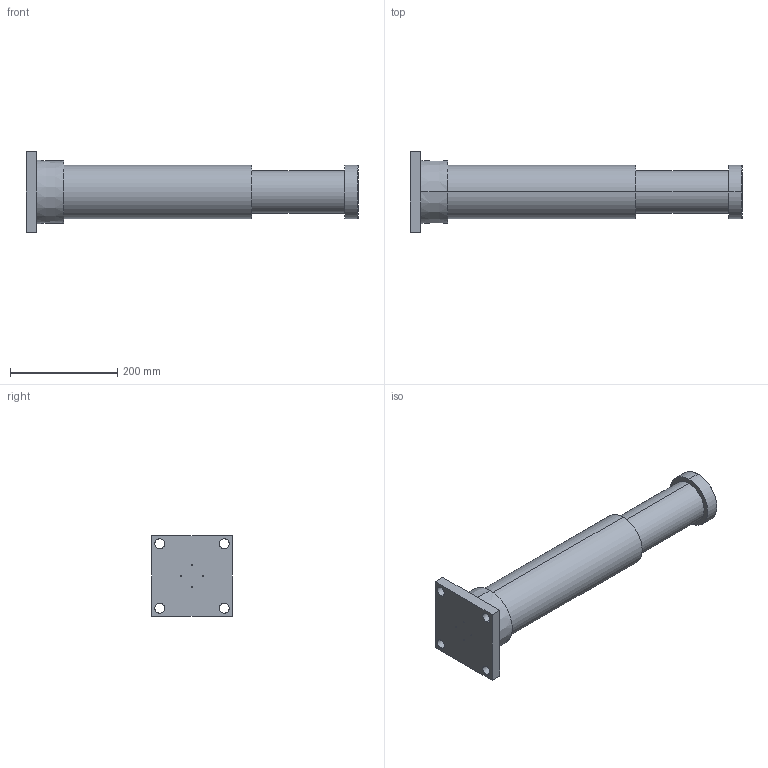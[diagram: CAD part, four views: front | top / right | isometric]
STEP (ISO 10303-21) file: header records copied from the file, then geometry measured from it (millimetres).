
FILE_DESCRIPTION (( 'STEP AP214' ), '1' );
FILE_NAME ('LDH100X150FR.STEP', '2019-01-21T04:57:42', ( 'user' ), ( 'Microsoft' ), 'SwSTEP 2.0', 'SolidWorks 2016', '' );
FILE_SCHEMA (( 'AUTOMOTIVE_DESIGN' ));
Length unit declared in the file: millimetre
Products named in the file (1): LDH100X150FR
Bounding box: 618 x 150 x 150 mm (x, y, z)
Volume: 4775425.7 mm3; surface area: 244412.1 mm2
Topology: 1 solids, 1 shells, 40 faces, 88 edges, 58 vertices
Faces by surface type: cylinder 22, plane 14, cone 4
Entity records: 1176 total; most frequent: DIRECTION 220, CARTESIAN_POINT 187, ORIENTED_EDGE 176, AXIS2_PLACEMENT_3D 91, EDGE_CURVE 88, VERTEX_POINT 58, EDGE_LOOP 56, CIRCLE 50
